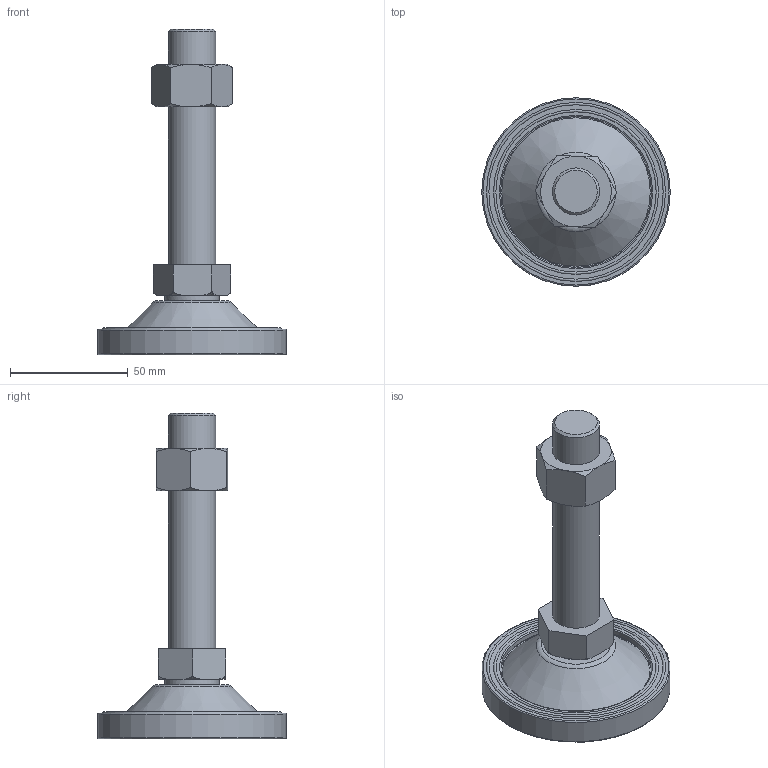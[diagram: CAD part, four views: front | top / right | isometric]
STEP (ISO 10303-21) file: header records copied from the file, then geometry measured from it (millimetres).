
FILE_DESCRIPTION((' '),'2;1');
FILE_NAME('Y:\00. A standard brand\06. 3D Modeling\외부전송용_STEP\LEVELLING FOOT(STEP)\A-PLR SERIES STEP\A-PLR-20-100.stp.stp','2011-11-22T18:43:40',(' '),(' '),' ','ACIS',' ');
FILE_SCHEMA(('CONFIG_CONTROL_DESIGN'));
Length unit declared in the file: millimetre
Products named in the file (1): Y:\00. A standard brand\06. 3D Modeling\외부전송용_STEP\LEVELLING FOOT(STEP)\A-PLR SERIES STEP\A-PLR-20-100.stp.stp
Bounding box: 80 x 80 x 138.31 mm (x, y, z)
Volume: 97180.6 mm3; surface area: 34119 mm2
Topology: 3 solids, 4 shells, 115 faces, 255 edges, 159 vertices
Faces by surface type: plane 56, cylinder 20, cone 17, torus 15, bspline 7
Full cylindrical faces by diameter (mm): 8 x1, 12 x2, 19.27 x1, 20 x2, 23 x1, 36 x1, 51 x1, 64 x2, 80 x1
Entity records: 3416 total; most frequent: CARTESIAN_POINT 997, DIRECTION 480, ORIENTED_EDGE 426, EDGE_CURVE 213, AXIS2_PLACEMENT_3D 194, EDGE_LOOP 162, VERTEX_POINT 150, FACE_OUTER_BOUND 115
